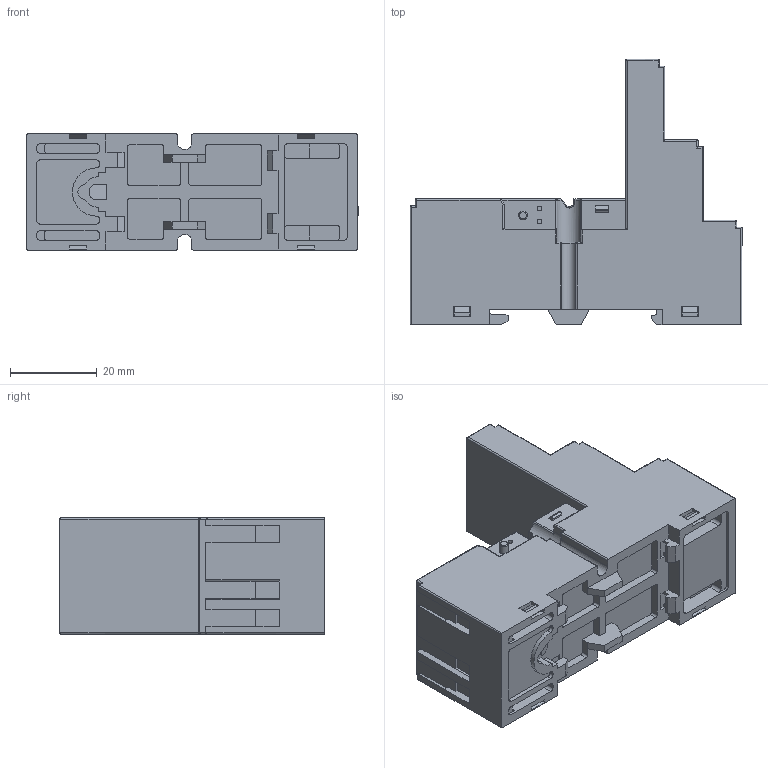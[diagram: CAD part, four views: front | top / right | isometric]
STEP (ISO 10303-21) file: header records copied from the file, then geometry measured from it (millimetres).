
FILE_DESCRIPTION (( 'STEP AP203' ), '1' );
FILE_NAME ('SKC11-E 俋倛.STEP', '2023-08-03T06:45:13', ( 'admin' ), ( '' ), 'SwSTEP 2.0', 'SolidWorks 2022', '' );
FILE_SCHEMA (( 'CONFIG_CONTROL_DESIGN' ));
Length unit declared in the file: millimetre
Products named in the file (1): SKC11-E 俋倛
Bounding box: 76.4 x 61 x 26.7 mm (x, y, z)
Volume: 59115.3 mm3; surface area: 17028.6 mm2
Topology: 1 solids, 3 shells, 1180 faces, 3128 edges, 1985 vertices
Faces by surface type: plane 688, cylinder 272, torus 143, cone 55, bspline 14, sphere 8
Entity records: 38416 total; most frequent: CARTESIAN_POINT 9468, ORIENTED_EDGE 6172, DIRECTION 5836, EDGE_CURVE 3086, VERTEX_POINT 1985, AXIS2_PLACEMENT_3D 1948, LINE 1940, VECTOR 1940
